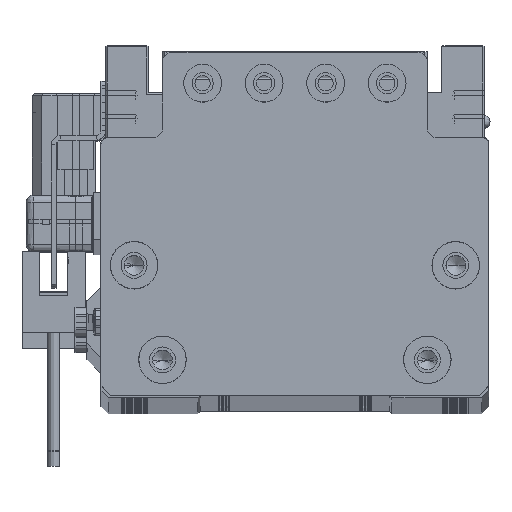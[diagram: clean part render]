
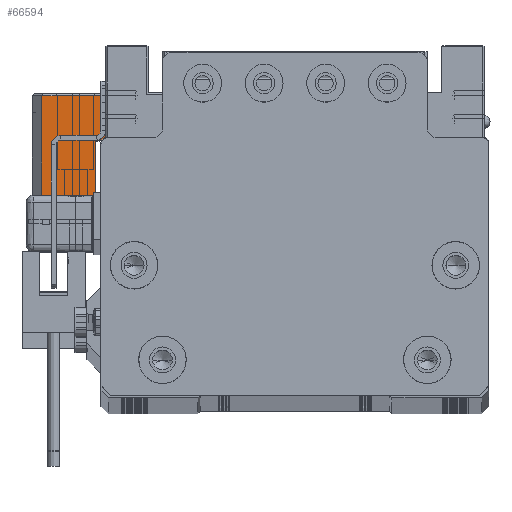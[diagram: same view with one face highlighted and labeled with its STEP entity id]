
A CAD part, top view. The second image highlights one B-rep face of the part: STEP entity #66594.
In plain terms, the highlighted planar face has unit normal (0, 0, 1) as drawn and (1, 0, 0) by its records, which use the part's own axes.
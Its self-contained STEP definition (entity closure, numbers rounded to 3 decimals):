
#1790 = ORIENTED_EDGE ( 'NONE', *, *, #60258, .F. ) ;
#2797 = VERTEX_POINT ( 'NONE', #48078 ) ;
#3484 = LINE ( 'NONE', #25676, #42898 ) ;
#4193 = VECTOR ( 'NONE', #45911, 1000. ) ;
#4239 = CARTESIAN_POINT ( 'NONE',  ( 17., 0.75, -15.5 ) ) ;
#4477 = AXIS2_PLACEMENT_3D ( 'NONE', #63280, #29792, #41752 ) ;
#5607 = EDGE_CURVE ( 'NONE', #46810, #61868, #51402, .T. ) ;
#5624 = EDGE_CURVE ( 'NONE', #14489, #27496, #33200, .T. ) ;
#5776 = EDGE_CURVE ( 'NONE', #14489, #2797, #30270, .T. ) ;
#9237 = LINE ( 'NONE', #53240, #42188 ) ;
#9978 = CARTESIAN_POINT ( 'NONE',  ( 17., 10.25, -2. ) ) ;
#11765 = DIRECTION ( 'NONE',  ( 0., -1., 0. ) ) ;
#12724 = PLANE ( 'NONE',  #4477 ) ;
#14489 = VERTEX_POINT ( 'NONE', #4239 ) ;
#16097 = ORIENTED_EDGE ( 'NONE', *, *, #67231, .F. ) ;
#16397 = CARTESIAN_POINT ( 'NONE',  ( 17., -10.75, -13.3 ) ) ;
#16693 = LINE ( 'NONE', #21447, #18300 ) ;
#17566 = CARTESIAN_POINT ( 'NONE',  ( 17., 0.75, -15.5 ) ) ;
#18276 = DIRECTION ( 'NONE',  ( 0., 1., 0. ) ) ;
#18300 = VECTOR ( 'NONE', #61101, 1000. ) ;
#18893 = FACE_OUTER_BOUND ( 'NONE', #19502, .T. ) ;
#19290 = ORIENTED_EDGE ( 'NONE', *, *, #5607, .T. ) ;
#19502 = EDGE_LOOP ( 'NONE', ( #33168, #30955, #19290, #1790, #16097, #38612 ) ) ;
#21084 = CARTESIAN_POINT ( 'NONE',  ( 17., -10.75, -2. ) ) ;
#21368 = VERTEX_POINT ( 'NONE', #16397 ) ;
#21447 = CARTESIAN_POINT ( 'NONE',  ( 17., 10.25, -15.5 ) ) ;
#24779 = CARTESIAN_POINT ( 'NONE',  ( 17., -10.75, -15.5 ) ) ;
#25676 = CARTESIAN_POINT ( 'NONE',  ( 17., -10.75, -13.3 ) ) ;
#27496 = VERTEX_POINT ( 'NONE', #55243 ) ;
#29792 = DIRECTION ( 'NONE',  ( 1., 0., 0. ) ) ;
#30270 = LINE ( 'NONE', #24779, #53029 ) ;
#30955 = ORIENTED_EDGE ( 'NONE', *, *, #52588, .T. ) ;
#33168 = ORIENTED_EDGE ( 'NONE', *, *, #5776, .T. ) ;
#33200 = LINE ( 'NONE', #17566, #4193 ) ;
#34279 = CARTESIAN_POINT ( 'NONE',  ( 17., -10.75, -2. ) ) ;
#37560 = DIRECTION ( 'NONE',  ( 0., 0., 1. ) ) ;
#38612 = ORIENTED_EDGE ( 'NONE', *, *, #5624, .F. ) ;
#41752 = DIRECTION ( 'NONE',  ( 0., 0., -1. ) ) ;
#42188 = VECTOR ( 'NONE', #37560, 1000. ) ;
#42898 = VECTOR ( 'NONE', #47876, 1000. ) ;
#45911 = DIRECTION ( 'NONE',  ( 0., 0., 1. ) ) ;
#46810 = VERTEX_POINT ( 'NONE', #9978 ) ;
#47876 = DIRECTION ( 'NONE',  ( 0., -1., 0. ) ) ;
#48078 = CARTESIAN_POINT ( 'NONE',  ( 17., 10.25, -15.5 ) ) ;
#51402 = LINE ( 'NONE', #34279, #51886 ) ;
#51886 = VECTOR ( 'NONE', #11765, 1000. ) ;
#52588 = EDGE_CURVE ( 'NONE', #2797, #46810, #16693, .T. ) ;
#53029 = VECTOR ( 'NONE', #18276, 1000. ) ;
#53240 = CARTESIAN_POINT ( 'NONE',  ( 17., -10.75, -15.5 ) ) ;
#55243 = CARTESIAN_POINT ( 'NONE',  ( 17., 0.75, -13.3 ) ) ;
#60258 = EDGE_CURVE ( 'NONE', #21368, #61868, #9237, .T. ) ;
#61101 = DIRECTION ( 'NONE',  ( 0., 0., 1. ) ) ;
#61868 = VERTEX_POINT ( 'NONE', #21084 ) ;
#63280 = CARTESIAN_POINT ( 'NONE',  ( 17., -10.75, -15.5 ) ) ;
#66594 = ADVANCED_FACE ( 'NONE', ( #18893 ), #12724, .T. ) ;
#67231 = EDGE_CURVE ( 'NONE', #27496, #21368, #3484, .T. ) ;
